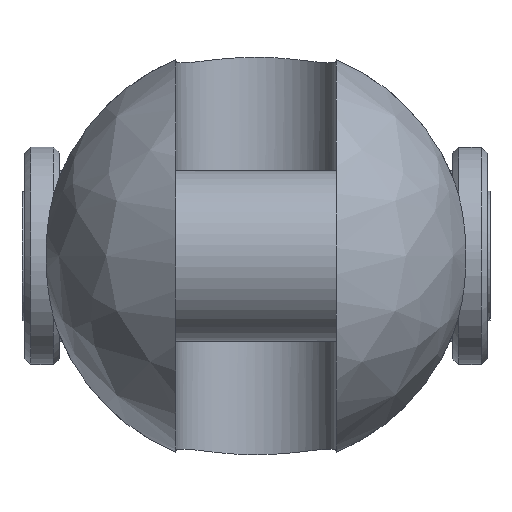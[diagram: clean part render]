
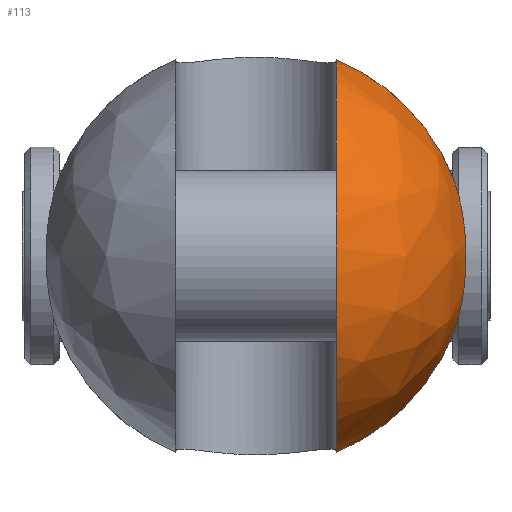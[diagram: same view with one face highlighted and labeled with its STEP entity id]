
A CAD part, left-side view. The second image highlights one B-rep face of the part: STEP entity #113.
In plain terms, the highlighted free-form (B-spline) face has degree [2, 2] with [9, 5] control points.
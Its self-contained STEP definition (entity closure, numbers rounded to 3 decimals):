
#113=ADVANCED_FACE('',(#200),#1522,.T.);
#200=FACE_OUTER_BOUND('',#299,.T.);
#299=EDGE_LOOP('',(#739,#740,#741,#742));
#739=ORIENTED_EDGE('',*,*,#993,.T.);
#740=ORIENTED_EDGE('',*,*,#990,.F.);
#741=ORIENTED_EDGE('',*,*,#1016,.T.);
#742=ORIENTED_EDGE('',*,*,#984,.F.);
#984=EDGE_CURVE('',#1413,#1414,#1245,.T.);
#990=EDGE_CURVE('',#1421,#1422,#1246,.T.);
#993=EDGE_CURVE('',#1413,#1422,#1248,.T.);
#1016=EDGE_CURVE('',#1421,#1414,#1119,.T.);
#1119=B_SPLINE_CURVE_WITH_KNOTS('',3,(#3562,#3563,#3564,#3565,#3566,#3567,
#3568,#3569,#3570,#3571,#3572,#3573,#3574,#3575),.UNSPECIFIED.,.F.,.F.,
(4,2,2,2,2,2,4),(-15.072,-13.761,-10.649,
-7.536,-4.423,-1.311,0.),.UNSPECIFIED.);
#1245=(
BOUNDED_CURVE()
B_SPLINE_CURVE(2,(#3437,#3438,#3439),.UNSPECIFIED.,.F.,.F.)
B_SPLINE_CURVE_WITH_KNOTS((3,3),(0.,14.917),.UNSPECIFIED.)
CURVE()
GEOMETRIC_REPRESENTATION_ITEM()
RATIONAL_B_SPLINE_CURVE((1.,0.92,1.))
REPRESENTATION_ITEM('')
);
#1246=(
BOUNDED_CURVE()
B_SPLINE_CURVE(2,(#3462,#3463,#3464),.UNSPECIFIED.,.F.,.F.)
B_SPLINE_CURVE_WITH_KNOTS((3,3),(0.,14.917),.UNSPECIFIED.)
CURVE()
GEOMETRIC_REPRESENTATION_ITEM()
RATIONAL_B_SPLINE_CURVE((1.,0.92,1.))
REPRESENTATION_ITEM('')
);
#1248=(
BOUNDED_CURVE()
B_SPLINE_CURVE(2,(#3470,#3471,#3472,#3473,#3474),.UNSPECIFIED.,.F.,.F.)
B_SPLINE_CURVE_WITH_KNOTS((3,2,3),(-53.798,-26.899,
0.),.UNSPECIFIED.)
CURVE()
GEOMETRIC_REPRESENTATION_ITEM()
RATIONAL_B_SPLINE_CURVE((1.,0.707,1.,0.707,1.))
REPRESENTATION_ITEM('')
);
#1413=VERTEX_POINT('',#3269);
#1414=VERTEX_POINT('',#3270);
#1421=VERTEX_POINT('',#3277);
#1422=VERTEX_POINT('',#3278);
#1522=(
BOUNDED_SURFACE()
B_SPLINE_SURFACE(2,2,((#3141,#3142,#3143,#3144,#3145),(#3146,#3147,#3148,
#3149,#3150),(#3151,#3152,#3153,#3154,#3155),(#3156,#3157,#3158,#3159,#3160),
(#3161,#3162,#3163,#3164,#3165),(#3166,#3167,#3168,#3169,#3170),(#3171,
#3172,#3173,#3174,#3175),(#3176,#3177,#3178,#3179,#3180),(#3181,#3182,#3183,
#3184,#3185)),.UNSPECIFIED.,.T.,.F.,.F.)
B_SPLINE_SURFACE_WITH_KNOTS((3,2,2,2,3),(3,2,3),(0.,1.571,3.142,
4.712,6.283),(-1.571,0.,1.571),
 .UNSPECIFIED.)
GEOMETRIC_REPRESENTATION_ITEM()
RATIONAL_B_SPLINE_SURFACE(((1.,0.707,1.,0.707,1.),
(0.707,0.5,0.707,0.5,0.707),(1.,0.707,
1.,0.707,1.),(0.707,0.5,0.707,0.5,0.707),
(1.,0.707,1.,0.707,1.),(0.707,0.5,0.707,
0.5,0.707),(1.,0.707,1.,0.707,1.),(0.707,
0.5,0.707,0.5,0.707),(1.,0.707,1.,0.707,
1.)))
REPRESENTATION_ITEM('')
SURFACE()
);
#3141=CARTESIAN_POINT('',(-26.5,0.,0.));
#3142=CARTESIAN_POINT('',(-26.5,18.5,0.));
#3143=CARTESIAN_POINT('',(-8.,18.5,0.));
#3144=CARTESIAN_POINT('',(10.5,18.5,0.));
#3145=CARTESIAN_POINT('',(10.5,0.,0.));
#3146=CARTESIAN_POINT('',(-26.5,0.,0.));
#3147=CARTESIAN_POINT('',(-26.5,18.5,18.5));
#3148=CARTESIAN_POINT('',(-8.,18.5,18.5));
#3149=CARTESIAN_POINT('',(10.5,18.5,18.5));
#3150=CARTESIAN_POINT('',(10.5,0.,0.));
#3151=CARTESIAN_POINT('',(-26.5,0.,0.));
#3152=CARTESIAN_POINT('',(-26.5,0.,18.5));
#3153=CARTESIAN_POINT('',(-8.,0.,18.5));
#3154=CARTESIAN_POINT('',(10.5,0.,18.5));
#3155=CARTESIAN_POINT('',(10.5,0.,0.));
#3156=CARTESIAN_POINT('',(-26.5,0.,0.));
#3157=CARTESIAN_POINT('',(-26.5,-18.5,18.5));
#3158=CARTESIAN_POINT('',(-8.,-18.5,18.5));
#3159=CARTESIAN_POINT('',(10.5,-18.5,18.5));
#3160=CARTESIAN_POINT('',(10.5,0.,0.));
#3161=CARTESIAN_POINT('',(-26.5,0.,0.));
#3162=CARTESIAN_POINT('',(-26.5,-18.5,0.));
#3163=CARTESIAN_POINT('',(-8.,-18.5,0.));
#3164=CARTESIAN_POINT('',(10.5,-18.5,0.));
#3165=CARTESIAN_POINT('',(10.5,0.,0.));
#3166=CARTESIAN_POINT('',(-26.5,0.,0.));
#3167=CARTESIAN_POINT('',(-26.5,-18.5,-18.5));
#3168=CARTESIAN_POINT('',(-8.,-18.5,-18.5));
#3169=CARTESIAN_POINT('',(10.5,-18.5,-18.5));
#3170=CARTESIAN_POINT('',(10.5,0.,0.));
#3171=CARTESIAN_POINT('',(-26.5,0.,0.));
#3172=CARTESIAN_POINT('',(-26.5,0.,-18.5));
#3173=CARTESIAN_POINT('',(-8.,0.,-18.5));
#3174=CARTESIAN_POINT('',(10.5,0.,-18.5));
#3175=CARTESIAN_POINT('',(10.5,0.,0.));
#3176=CARTESIAN_POINT('',(-26.5,0.,0.));
#3177=CARTESIAN_POINT('',(-26.5,18.5,-18.5));
#3178=CARTESIAN_POINT('',(-8.,18.5,-18.5));
#3179=CARTESIAN_POINT('',(10.5,18.5,-18.5));
#3180=CARTESIAN_POINT('',(10.5,0.,0.));
#3181=CARTESIAN_POINT('',(-26.5,0.,0.));
#3182=CARTESIAN_POINT('',(-26.5,18.5,0.));
#3183=CARTESIAN_POINT('',(-8.,18.5,0.));
#3184=CARTESIAN_POINT('',(10.5,18.5,0.));
#3185=CARTESIAN_POINT('',(10.5,0.,0.));
#3269=CARTESIAN_POINT('',(-8.,-7.,17.125));
#3270=CARTESIAN_POINT('',(-8.,-17.205,6.801));
#3277=CARTESIAN_POINT('',(-8.,-17.205,-6.801));
#3278=CARTESIAN_POINT('',(-8.,-7.,-17.125));
#3437=CARTESIAN_POINT('',(-8.,-7.,17.125));
#3438=CARTESIAN_POINT('',(-8.,-14.304,14.139));
#3439=CARTESIAN_POINT('',(-8.,-17.205,6.801));
#3462=CARTESIAN_POINT('',(-8.,-17.205,-6.801));
#3463=CARTESIAN_POINT('',(-8.,-14.304,-14.139));
#3464=CARTESIAN_POINT('',(-8.,-7.,-17.125));
#3470=CARTESIAN_POINT('',(-8.,-7.,17.125));
#3471=CARTESIAN_POINT('',(-25.125,-7.,17.125));
#3472=CARTESIAN_POINT('',(-25.125,-7.,0.));
#3473=CARTESIAN_POINT('',(-25.125,-7.,-17.125));
#3474=CARTESIAN_POINT('',(-8.,-7.,-17.125));
#3562=CARTESIAN_POINT('',(-8.,-17.205,-6.801));
#3563=CARTESIAN_POINT('',(-8.27,-17.33,-6.483));
#3564=CARTESIAN_POINT('',(-8.519,-17.444,-6.152));
#3565=CARTESIAN_POINT('',(-9.272,-17.788,-5.019));
#3566=CARTESIAN_POINT('',(-9.737,-17.995,-4.068));
#3567=CARTESIAN_POINT('',(-10.351,-18.266,-2.052));
#3568=CARTESIAN_POINT('',(-10.5,-18.33,-0.988));
#3569=CARTESIAN_POINT('',(-10.5,-18.33,0.988));
#3570=CARTESIAN_POINT('',(-10.351,-18.266,2.052));
#3571=CARTESIAN_POINT('',(-9.737,-17.995,4.068));
#3572=CARTESIAN_POINT('',(-9.272,-17.788,5.019));
#3573=CARTESIAN_POINT('',(-8.519,-17.444,6.152));
#3574=CARTESIAN_POINT('',(-8.27,-17.33,6.483));
#3575=CARTESIAN_POINT('',(-8.,-17.205,6.801));
